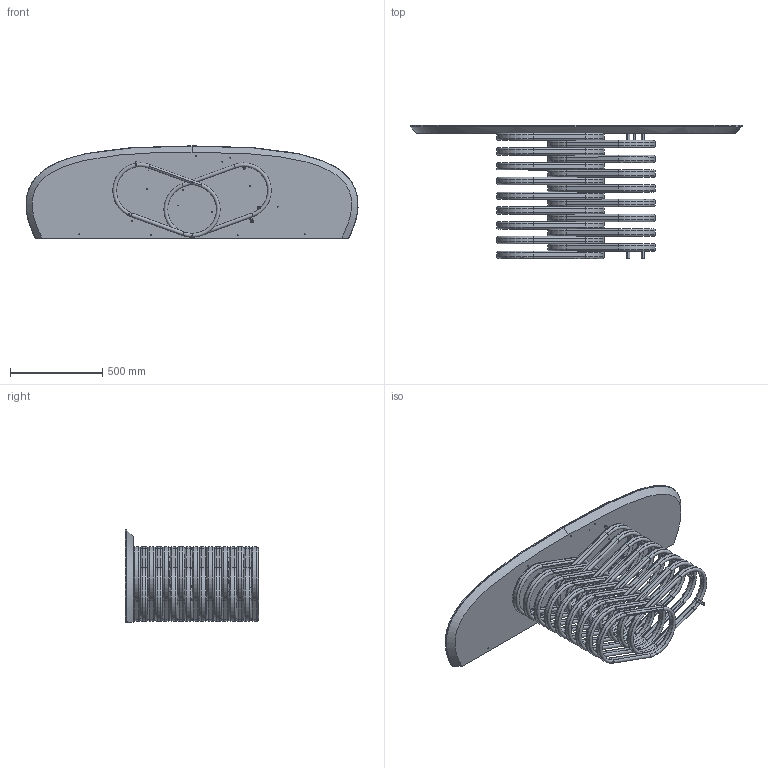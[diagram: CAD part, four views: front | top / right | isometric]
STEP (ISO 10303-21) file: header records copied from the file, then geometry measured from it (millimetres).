
FILE_DESCRIPTION (( 'STEP AP203' ), '1' );
FILE_NAME ('RO61G.STEP', '2024-08-06T10:02:54', ( '' ), ( '' ), 'SwSTEP 2.0', 'SolidWorks 2022', '' );
FILE_SCHEMA (( 'CONFIG_CONTROL_DESIGN' ));
Length unit declared in the file: millimetre
Products named in the file (11): ROC000000_02-00-anello rotolo console SOTTO_Default<A macchina>; ROC000000_0X-00-anello rotolo console CIlindri SUP_INF_INFERIORE<A macchina>; ROC000000_0X-00-anello rotolo console CIlindri SUP_INF_SUPERIORE; CXXXX-00-piani CRISTALLO Sasso per console_180X50; ROC000001PSx-00-CONSOLEE ROTOLO PIASTRA FISSAGGIO_STAFFA LUNGA; ROC000000_01-00-anello rotolo console SOPRA_Default<A macchina>; RO61G; CXXXX-00-piani CRISTALLO Sasso per console_180x50; ROC000000-00-CONSOLLE ROTOLO BASE STRUTTURA; ROC000000_03-00-anello rotolo console MEDIO_Default<A macchina>; TRU000XXX-01-Sottopiano per ceramica_180x50
Assembly tree (22 placements, depth 3):
  RO61G
    CXXXX-00-piani CRISTALLO Sasso per console_180X50
      CXXXX-00-piani CRISTALLO Sasso per console_180x50
      TRU000XXX-01-Sottopiano per ceramica_180x50
    ROC000000-00-CONSOLLE ROTOLO BASE STRUTTURA
      ROC000000_02-00-anello rotolo console SOTTO_Default<A macchina>
      ROC000000_03-00-anello rotolo console MEDIO_Default<A macchina>  x13
      ROC000000_01-00-anello rotolo console SOPRA_Default<A macchina>
      ROC000000_0X-00-anello rotolo console CIlindri SUP_INF_INFERIORE<A macchina>
      ROC000000_0X-00-anello rotolo console CIlindri SUP_INF_SUPERIORE
    ROC000001PSx-00-CONSOLEE ROTOLO PIASTRA FISSAGGIO_STAFFA LUNGA
Bounding box: 1799.15 x 721.01 x 500 mm (x, y, z)
Volume: 36617360.3 mm3; surface area: 8256595.5 mm2
Topology: 75 solids, 75 shells, 872 faces, 2119 edges, 1373 vertices
Faces by surface type: cylinder 386, plane 300, torus 136, cone 44, bspline 6
Entity records: 14013 total; most frequent: CARTESIAN_POINT 3692, DIRECTION 1996, ORIENTED_EDGE 1702, EDGE_CURVE 851, AXIS2_PLACEMENT_3D 791, VERTEX_POINT 557, EDGE_LOOP 444, LINE 414
